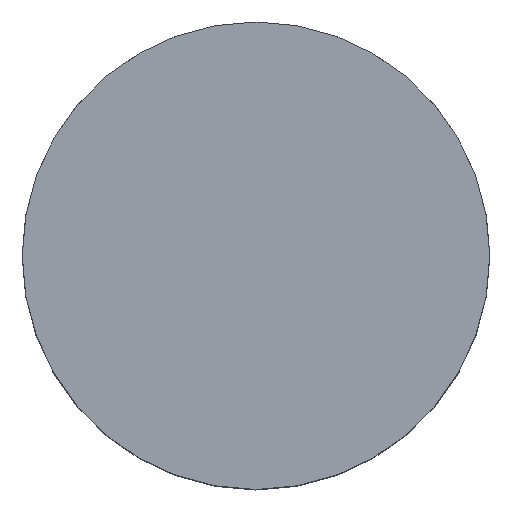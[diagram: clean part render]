
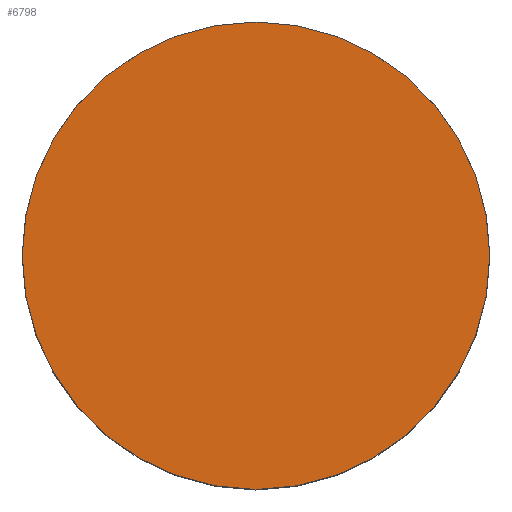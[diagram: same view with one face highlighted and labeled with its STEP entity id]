
A CAD part, top view. The second image highlights one B-rep face of the part: STEP entity #6798.
In plain terms, the highlighted planar face has unit normal (0, 0, 1).
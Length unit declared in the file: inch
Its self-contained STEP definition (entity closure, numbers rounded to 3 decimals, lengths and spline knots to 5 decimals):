
#2566 = PLANE ( 'NONE',  #2571 ) ;
#2567 = CARTESIAN_POINT ( 'NONE',  ( 0.75, 0., 1.46 ) ) ;
#2568 = DIRECTION ( 'NONE',  ( -1., 0., 0. ) ) ;
#2569 = DIRECTION ( 'NONE',  ( -1., 0., 0. ) ) ;
#2570 = DIRECTION ( 'NONE',  ( 0., 0., -1. ) ) ;
#2571 = AXIS2_PLACEMENT_3D ( 'NONE', #2567, #2570, #2569 ) ;
#2591 = DIRECTION ( 'NONE',  ( 0., 0., -1. ) ) ;
#2592 = CARTESIAN_POINT ( 'NONE',  ( 0., 0., 1.46 ) ) ;
#2593 = AXIS2_PLACEMENT_3D ( 'NONE', #2592, #2591, #2568 ) ;
#2594 = CIRCLE ( 'NONE', #2593, 0.75 ) ;
#2595 = FACE_OUTER_BOUND ( 'NONE', #6834, .T. ) ;
#6084 = VERTEX_POINT ( 'NONE', #6890 ) ;
#6115 = EDGE_CURVE ( 'NONE', #6084, #6116, #6955, .T. ) ;
#6116 = VERTEX_POINT ( 'NONE', #6943 ) ;
#6795 = EDGE_CURVE ( 'NONE', #6116, #6084, #2594, .T. ) ;
#6798 = ADVANCED_FACE ( 'NONE', ( #2595 ), #2566, .F. ) ;
#6834 = EDGE_LOOP ( 'NONE', ( #6835, #6836 ) ) ;
#6835 = ORIENTED_EDGE ( 'NONE', *, *, #6115, .F. ) ;
#6836 = ORIENTED_EDGE ( 'NONE', *, *, #6795, .F. ) ;
#6890 = CARTESIAN_POINT ( 'NONE',  ( -0.75, 0., 1.46 ) ) ;
#6943 = CARTESIAN_POINT ( 'NONE',  ( 0.75, 0., 1.46 ) ) ;
#6944 = DIRECTION ( 'NONE',  ( -1., 0., 0. ) ) ;
#6945 = DIRECTION ( 'NONE',  ( 0., 0., -1. ) ) ;
#6946 = CARTESIAN_POINT ( 'NONE',  ( 0., 0., 1.46 ) ) ;
#6950 = AXIS2_PLACEMENT_3D ( 'NONE', #6946, #6945, #6944 ) ;
#6955 = CIRCLE ( 'NONE', #6950, 0.75 ) ;
